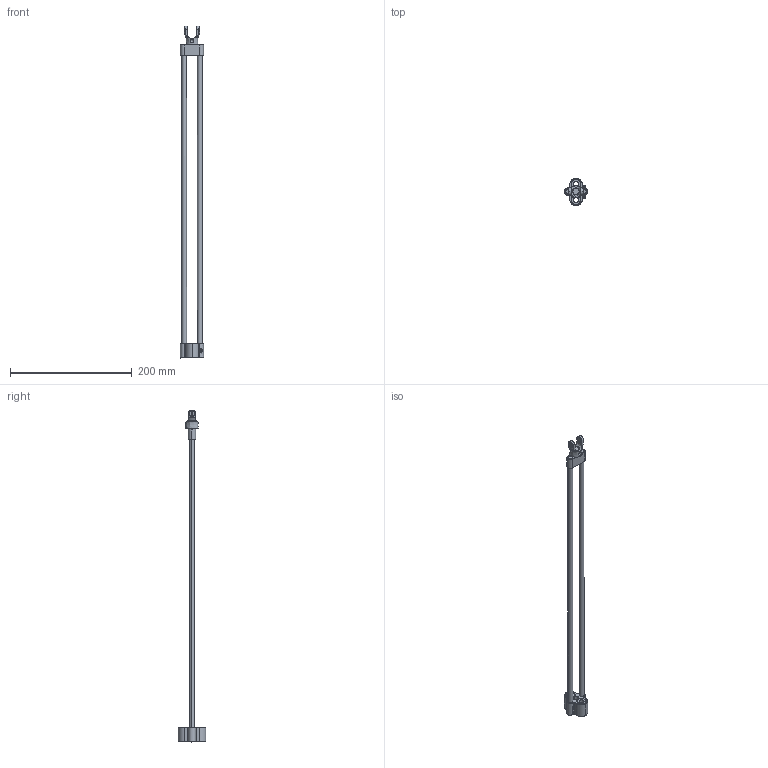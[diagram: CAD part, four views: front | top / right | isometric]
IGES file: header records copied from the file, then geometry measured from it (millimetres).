
Start section: SolidWorks IGES file using analytic representation for surfaces
Global section: file name: C:\Users\SELUHAA\Desktop\Work items\545792\IGES\IRB360_X-1130-WDS-4D_rev03_IGES_J\IRB360_X-1130-WDS-4D_rev03_MU_CAD.IGS; native system: SolidWorks 2022; preprocessor: SolidWorks 2022; author: SELUHAA; date: 231204.111637; units: millimetre
Bounding box: 38.08 x 45 x 545.8 mm (x, y, z)
Surface area: 45461.1 mm2 (no closed solid volume)
Topology: 0 solids, 0 shells, 255 faces, 3905 edges, 3895 vertices
Faces by surface type: revolution 163, bspline 92
